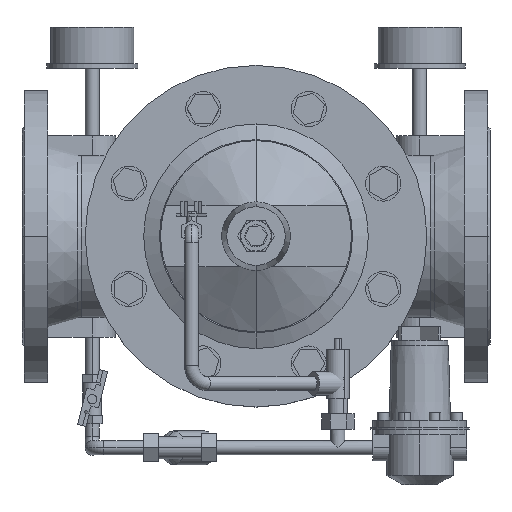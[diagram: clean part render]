
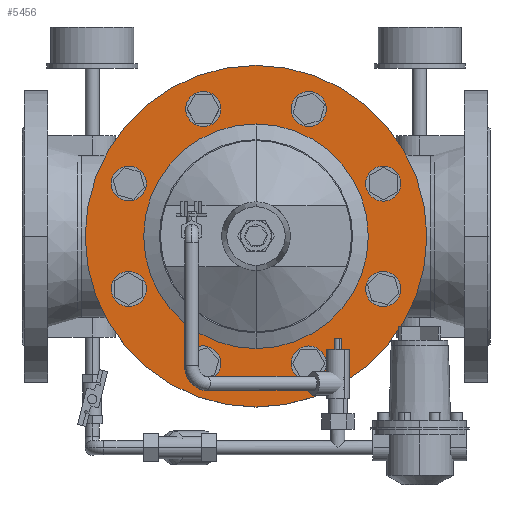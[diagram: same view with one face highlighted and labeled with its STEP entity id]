
A CAD part, top view. The second image highlights one B-rep face of the part: STEP entity #5456.
In plain terms, the highlighted planar face has unit normal (0, 0, 1).
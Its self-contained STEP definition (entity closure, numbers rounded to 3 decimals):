
#5456=ADVANCED_FACE('',(#9999,#10000),#10001,.T.);
#9999=FACE_BOUND('',#14981,.T.);
#10000=FACE_OUTER_BOUND('',#14982,.T.);
#10001=PLANE('',#14983);
#14981=EDGE_LOOP('',(#24632,#24633));
#14982=EDGE_LOOP('',(#24634,#24635));
#14983=AXIS2_PLACEMENT_3D('',#24636,#24637,#24638);
#24632=ORIENTED_EDGE('',*,*,#26801,.F.);
#24633=ORIENTED_EDGE('',*,*,#27658,.F.);
#24634=ORIENTED_EDGE('',*,*,#29511,.T.);
#24635=ORIENTED_EDGE('',*,*,#30364,.T.);
#24636=CARTESIAN_POINT('',(200.0,121.0,137.001));
#24637=DIRECTION('',(0.,0.,1.0));
#24638=DIRECTION('',(0.,1.0,0.));
#26801=EDGE_CURVE('',#31231,#31234,#31235,.T.);
#27658=EDGE_CURVE('',#31234,#31231,#32691,.T.);
#29511=EDGE_CURVE('',#35392,#35394,#35396,.T.);
#30364=EDGE_CURVE('',#35394,#35392,#36397,.T.);
#31231=VERTEX_POINT('',#37642);
#31234=VERTEX_POINT('',#37646);
#31235=CIRCLE('',#37647,96.0);
#32691=CIRCLE('',#39921,96.0);
#35392=VERTEX_POINT('',#43842);
#35394=VERTEX_POINT('',#43845);
#35396=CIRCLE('',#43848,146.0);
#36397=CIRCLE('',#45347,146.0);
#37642=CARTESIAN_POINT('',(200.0,96.0,137.001));
#37646=CARTESIAN_POINT('',(200.0,-96.0,137.001));
#37647=AXIS2_PLACEMENT_3D('',#46106,#46107,#46108);
#39921=AXIS2_PLACEMENT_3D('',#47165,#47166,#47167);
#43842=CARTESIAN_POINT('',(200.0,146.0,137.001));
#43845=CARTESIAN_POINT('',(200.0,-146.0,137.001));
#43848=AXIS2_PLACEMENT_3D('',#49265,#49266,#49267);
#45347=AXIS2_PLACEMENT_3D('',#50010,#50011,#50012);
#46106=CARTESIAN_POINT('',(200.0,0.0,137.001));
#46107=DIRECTION('',(0.,0.,1.0));
#46108=DIRECTION('',(0.,1.0,0.));
#47165=CARTESIAN_POINT('',(200.0,0.0,137.001));
#47166=DIRECTION('',(0.,0.,1.0));
#47167=DIRECTION('',(0.,1.0,0.));
#49265=CARTESIAN_POINT('',(200.0,0.0,137.001));
#49266=DIRECTION('',(0.,0.,1.0));
#49267=DIRECTION('',(0.,1.0,0.));
#50010=CARTESIAN_POINT('',(200.0,0.0,137.001));
#50011=DIRECTION('',(0.,0.,1.0));
#50012=DIRECTION('',(0.,1.0,0.));
